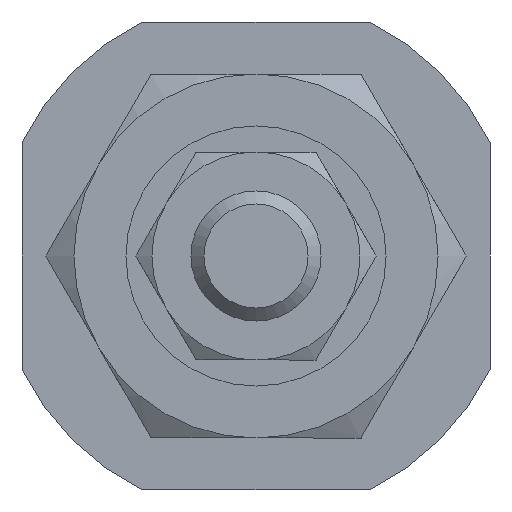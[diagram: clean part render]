
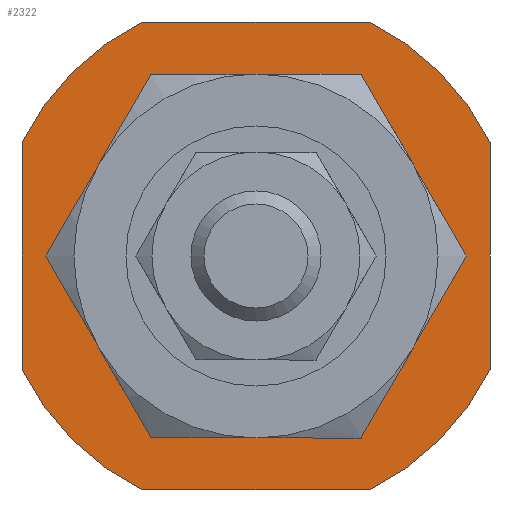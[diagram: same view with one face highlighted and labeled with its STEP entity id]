
A CAD part, left-side view. The second image highlights one B-rep face of the part: STEP entity #2322.
In plain terms, the highlighted planar face has unit normal (-1, 0, 0).
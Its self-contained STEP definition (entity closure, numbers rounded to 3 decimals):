
#1926=CARTESIAN_POINT('',(-175.899,-4.359,9.));
#1927=VERTEX_POINT('',#1926);
#1942=CARTESIAN_POINT('',(-175.899,4.359,9.0));
#1943=VERTEX_POINT('',#1942);
#1950=CARTESIAN_POINT('',(-175.899,-4.359,9.));
#1951=DIRECTION('',(0.0,1.0,0.0));
#1952=VECTOR('',#1951,8.718);
#1953=LINE('',#1950,#1952);
#1954=EDGE_CURVE('',#1927,#1943,#1953,.T.);
#2003=CARTESIAN_POINT('',(-175.899,4.359,-9.0));
#2004=VERTEX_POINT('',#2003);
#2019=CARTESIAN_POINT('',(-175.899,-4.359,-9.));
#2020=VERTEX_POINT('',#2019);
#2027=CARTESIAN_POINT('',(-175.899,4.359,-9.0));
#2028=DIRECTION('',(0.0,-1.0,0.0));
#2029=VECTOR('',#2028,8.718);
#2030=LINE('',#2027,#2029);
#2031=EDGE_CURVE('',#2004,#2020,#2030,.T.);
#2043=CARTESIAN_POINT('',(-175.899,-9.,-4.359));
#2044=VERTEX_POINT('',#2043);
#2059=CARTESIAN_POINT('',(-175.899,-9.,4.359));
#2060=VERTEX_POINT('',#2059);
#2067=CARTESIAN_POINT('',(-175.899,-9.,-4.359));
#2068=DIRECTION('',(0.0,0.0,1.0));
#2069=VECTOR('',#2068,8.718);
#2070=LINE('',#2067,#2069);
#2071=EDGE_CURVE('',#2044,#2060,#2070,.T.);
#2083=CARTESIAN_POINT('',(-175.899,9.,4.359));
#2084=VERTEX_POINT('',#2083);
#2099=CARTESIAN_POINT('',(-175.899,9.,-4.359));
#2100=VERTEX_POINT('',#2099);
#2107=CARTESIAN_POINT('',(-175.899,9.,4.359));
#2108=DIRECTION('',(0.0,0.0,-1.0));
#2109=VECTOR('',#2108,8.718);
#2110=LINE('',#2107,#2109);
#2111=EDGE_CURVE('',#2084,#2100,#2110,.T.);
#2232=CARTESIAN_POINT('',(-175.899,0.,0.0));
#2233=DIRECTION('',(-1.0,0.,0.0));
#2234=DIRECTION('',(0.,1.0,0.0));
#2235=AXIS2_PLACEMENT_3D('',#2232,#2233,#2234);
#2236=CIRCLE('',#2235,10.);
#2237=EDGE_CURVE('',#1943,#2084,#2236,.T.);
#2256=CARTESIAN_POINT('',(-175.899,0.,0.0));
#2257=DIRECTION('',(-1.0,0.,0.0));
#2258=DIRECTION('',(0.,1.0,0.0));
#2259=AXIS2_PLACEMENT_3D('',#2256,#2257,#2258);
#2260=CIRCLE('',#2259,10.);
#2261=EDGE_CURVE('',#2020,#2044,#2260,.T.);
#2272=CARTESIAN_POINT('',(-175.899,0.,0.0));
#2273=DIRECTION('',(-1.0,0.,0.0));
#2274=DIRECTION('',(0.,1.0,0.0));
#2275=AXIS2_PLACEMENT_3D('',#2272,#2273,#2274);
#2276=CIRCLE('',#2275,10.);
#2277=EDGE_CURVE('',#2100,#2004,#2276,.T.);
#2290=CARTESIAN_POINT('',(-175.899,7.5,0.0));
#2291=DIRECTION('',(-1.0,0.0,0.0));
#2292=DIRECTION('',(0.0,0.0,1.0));
#2293=AXIS2_PLACEMENT_3D('',#2290,#2291,#2292);
#2294=PLANE('',#2293);
#2295=ORIENTED_EDGE('',*,*,#1954,.T.);
#2296=ORIENTED_EDGE('',*,*,#2237,.T.);
#2297=ORIENTED_EDGE('',*,*,#2111,.T.);
#2298=ORIENTED_EDGE('',*,*,#2277,.T.);
#2299=ORIENTED_EDGE('',*,*,#2031,.T.);
#2300=ORIENTED_EDGE('',*,*,#2261,.T.);
#2301=ORIENTED_EDGE('',*,*,#2071,.T.);
#2302=CARTESIAN_POINT('',(-175.899,0.,0.0));
#2303=DIRECTION('',(-1.0,0.,0.0));
#2304=DIRECTION('',(0.,1.0,0.0));
#2305=AXIS2_PLACEMENT_3D('',#2302,#2303,#2304);
#2306=CIRCLE('',#2305,10.);
#2307=EDGE_CURVE('',#2060,#1927,#2306,.T.);
#2308=ORIENTED_EDGE('',*,*,#2307,.T.);
#2309=EDGE_LOOP('',(#2295,#2296,#2297,#2298,#2299,#2300,#2301,#2308));
#2310=FACE_OUTER_BOUND('',#2309,.T.);
#2311=CARTESIAN_POINT('',(-175.899,5.,0.0));
#2312=VERTEX_POINT('',#2311);
#2313=CARTESIAN_POINT('',(-175.899,0.,0.0));
#2314=DIRECTION('',(-1.0,0.,0.0));
#2315=DIRECTION('',(0.,1.0,0.0));
#2316=AXIS2_PLACEMENT_3D('',#2313,#2314,#2315);
#2317=CIRCLE('',#2316,5.);
#2318=EDGE_CURVE('',#2312,#2312,#2317,.T.);
#2319=ORIENTED_EDGE('',*,*,#2318,.F.);
#2320=EDGE_LOOP('',(#2319));
#2321=FACE_BOUND('',#2320,.T.);
#2322=ADVANCED_FACE('',(#2310,#2321),#2294,.T.);
